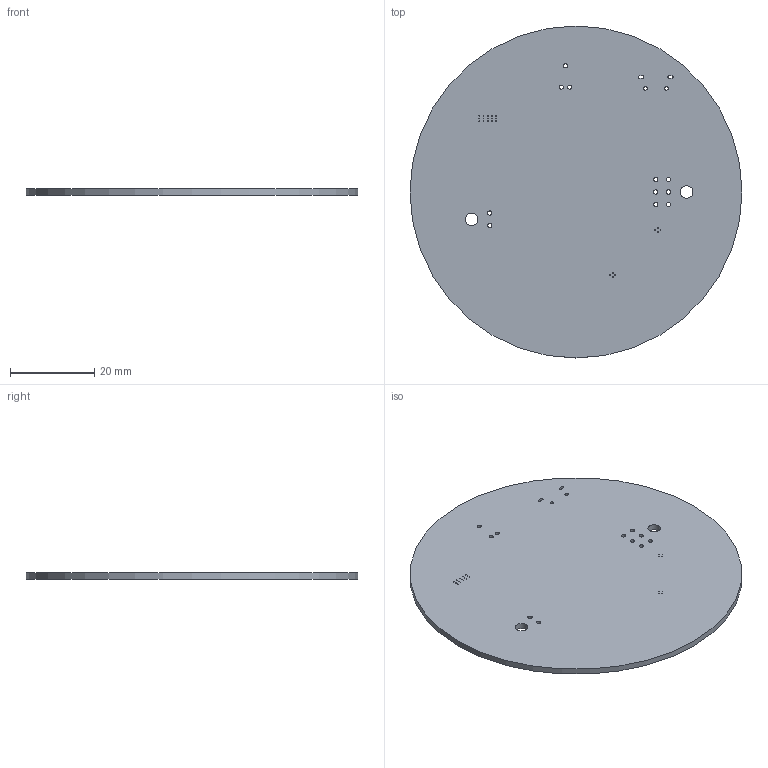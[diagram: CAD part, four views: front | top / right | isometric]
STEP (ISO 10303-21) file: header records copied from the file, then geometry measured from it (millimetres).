
FILE_DESCRIPTION(('Open CASCADE Model'),'2;1');
FILE_NAME('Open CASCADE Shape Model','2026-11-06T16:05:52',('Author'),( 'Open CASCADE'),'Open CASCADE STEP processor 7.5','Open CASCADE 7.5' ,'Unknown');
FILE_SCHEMA(('AUTOMOTIVE_DESIGN { 1 0 10303 214 1 1 1 1 }'));
Length unit declared in the file: millimetre
Products named in the file (3): PCB; Board; Open CASCADE STEP translator 7.5 1.1.1
Assembly tree (2 placements, depth 3):
  PCB
    Board
      Open CASCADE STEP translator 7.5 1.1.1
Bounding box: 79 x 79 x 1.44 mm (x, y, z)
Volume: 7033.9 mm3; surface area: 10224.6 mm2
Topology: 1 solids, 1 shells, 49 faces, 141 edges, 94 vertices
Faces by surface type: cylinder 43, plane 6
Full cylindrical faces by diameter (mm): 0.2 x23, 0.85 x2, 0.99 x3, 1.02 x8, 3 x2, 79 x1
Entity records: 1878 total; most frequent: DIRECTION 331, CARTESIAN_POINT 287, ORIENTED_EDGE 282, EDGE_CURVE 141, AXIS2_PLACEMENT_3D 138, FACE_BOUND 129, EDGE_LOOP 129, VERTEX_POINT 94
